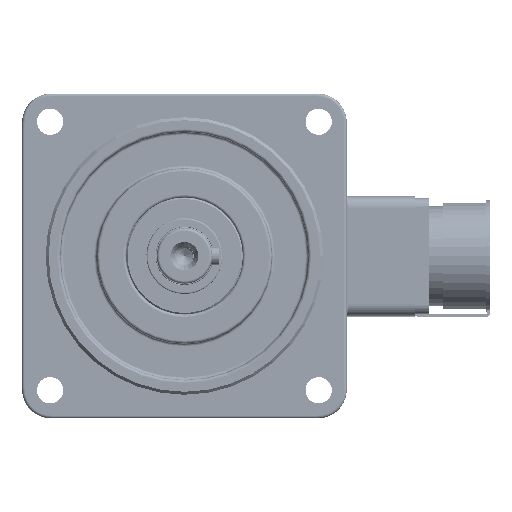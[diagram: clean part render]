
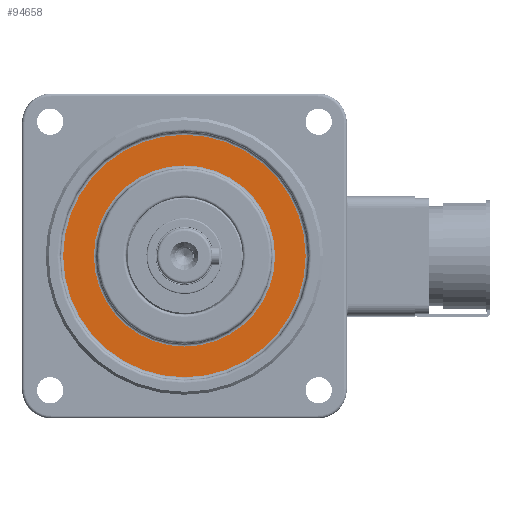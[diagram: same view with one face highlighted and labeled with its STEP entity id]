
A CAD part, left-side view. The second image highlights one B-rep face of the part: STEP entity #94658.
In plain terms, the highlighted planar face has unit normal (-1, 0, 0) as drawn and (1, 0, 0) by its records, which use the part's own axes.
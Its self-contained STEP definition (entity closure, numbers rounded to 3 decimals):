
#1525 = DIRECTION ( 'NONE',  ( -1., 0., 0. ) ) ;
#6774 = DIRECTION ( 'NONE',  ( 0., 0., 1. ) ) ;
#7304 = DIRECTION ( 'NONE',  ( 1., 0., 0. ) ) ;
#13181 = CIRCLE ( 'NONE', #95394, 41.5 ) ;
#17800 = PLANE ( 'NONE',  #117717 ) ;
#19018 = ORIENTED_EDGE ( 'NONE', *, *, #96782, .T. ) ;
#19648 = DIRECTION ( 'NONE',  ( 1., 0., 0. ) ) ;
#23477 = DIRECTION ( 'NONE',  ( -1., 0., 0. ) ) ;
#26181 = ORIENTED_EDGE ( 'NONE', *, *, #141957, .T. ) ;
#37519 = VERTEX_POINT ( 'NONE', #40167 ) ;
#37856 = VERTEX_POINT ( 'NONE', #68779 ) ;
#40167 = CARTESIAN_POINT ( 'NONE',  ( 23.5, 0., 41.5 ) ) ;
#40809 = ORIENTED_EDGE ( 'NONE', *, *, #65914, .T. ) ;
#46404 = DIRECTION ( 'NONE',  ( 0., 0., 1. ) ) ;
#47149 = CIRCLE ( 'NONE', #65944, 31. ) ;
#49079 = CARTESIAN_POINT ( 'NONE',  ( 23.5, 0., -41.5 ) ) ;
#52161 = DIRECTION ( 'NONE',  ( 0., 0., 1. ) ) ;
#54321 = CIRCLE ( 'NONE', #136576, 41.5 ) ;
#55383 = AXIS2_PLACEMENT_3D ( 'NONE', #124265, #23477, #68349 ) ;
#62659 = CARTESIAN_POINT ( 'NONE',  ( 23.5, 42.5, 0. ) ) ;
#64509 = DIRECTION ( 'NONE',  ( 0., 0., 1. ) ) ;
#64629 = EDGE_LOOP ( 'NONE', ( #26181, #19018 ) ) ;
#65914 = EDGE_CURVE ( 'NONE', #97394, #37519, #54321, .T. ) ;
#65944 = AXIS2_PLACEMENT_3D ( 'NONE', #102315, #1525, #46404 ) ;
#68349 = DIRECTION ( 'NONE',  ( 0., 0., 1. ) ) ;
#68779 = CARTESIAN_POINT ( 'NONE',  ( 23.5, 0., -31. ) ) ;
#70560 = ORIENTED_EDGE ( 'NONE', *, *, #133556, .T. ) ;
#73688 = FACE_BOUND ( 'NONE', #64629, .T. ) ;
#94658 = ADVANCED_FACE ( 'NONE', ( #73688, #118584 ), #17800, .F. ) ;
#95394 = AXIS2_PLACEMENT_3D ( 'NONE', #120431, #19648, #64509 ) ;
#96782 = EDGE_CURVE ( 'NONE', #37856, #98303, #47149, .T. ) ;
#97394 = VERTEX_POINT ( 'NONE', #49079 ) ;
#98303 = VERTEX_POINT ( 'NONE', #135262 ) ;
#102315 = CARTESIAN_POINT ( 'NONE',  ( 23.5, 0., 0. ) ) ;
#107568 = DIRECTION ( 'NONE',  ( -1., 0., 0. ) ) ;
#108113 = CARTESIAN_POINT ( 'NONE',  ( 23.5, 0., 0. ) ) ;
#111015 = EDGE_LOOP ( 'NONE', ( #70560, #40809 ) ) ;
#117717 = AXIS2_PLACEMENT_3D ( 'NONE', #62659, #107568, #6774 ) ;
#118584 = FACE_OUTER_BOUND ( 'NONE', #111015, .T. ) ;
#118825 = CIRCLE ( 'NONE', #55383, 31. ) ;
#120431 = CARTESIAN_POINT ( 'NONE',  ( 23.5, 0., 0. ) ) ;
#124265 = CARTESIAN_POINT ( 'NONE',  ( 23.5, 0., 0. ) ) ;
#133556 = EDGE_CURVE ( 'NONE', #37519, #97394, #13181, .T. ) ;
#135262 = CARTESIAN_POINT ( 'NONE',  ( 23.5, 0., 31. ) ) ;
#136576 = AXIS2_PLACEMENT_3D ( 'NONE', #108113, #7304, #52161 ) ;
#141957 = EDGE_CURVE ( 'NONE', #98303, #37856, #118825, .T. ) ;
